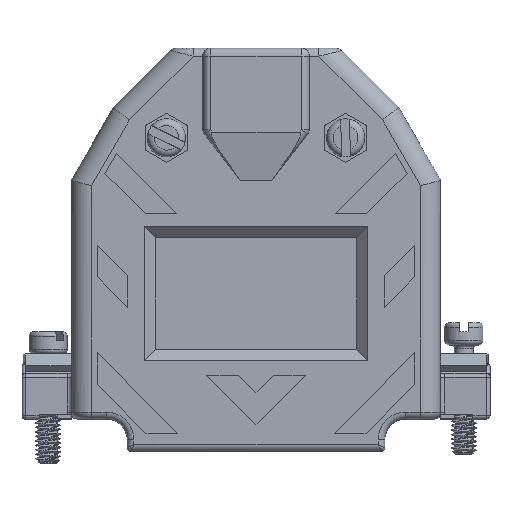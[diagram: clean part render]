
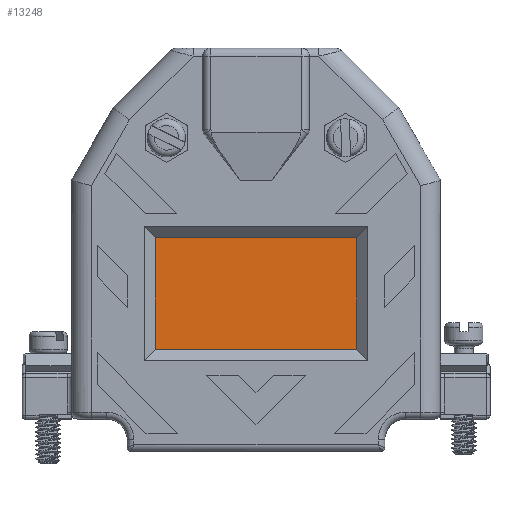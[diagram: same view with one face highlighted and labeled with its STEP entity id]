
A CAD part, top view. The second image highlights one B-rep face of the part: STEP entity #13248.
In plain terms, the highlighted planar face has unit normal (0, 0, 1) as drawn and (0, 0, -1) by its records, which use the part's own axes.
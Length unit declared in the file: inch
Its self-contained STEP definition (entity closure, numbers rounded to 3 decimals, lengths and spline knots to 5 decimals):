
#13147=CARTESIAN_POINT('',(0.45,0.055,-0.11));
#13148=VERTEX_POINT('',#13147);
#13155=CARTESIAN_POINT('',(-0.45,0.055,-0.11));
#13156=VERTEX_POINT('',#13155);
#13157=CARTESIAN_POINT('',(0.45,0.055,-0.11));
#13158=DIRECTION('',(-1.0,0.0,0.0));
#13159=VECTOR('',#13158,0.9);
#13160=LINE('',#13157,#13159);
#13161=EDGE_CURVE('',#13148,#13156,#13160,.T.);
#13179=CARTESIAN_POINT('',(-0.45,-0.445,-0.11));
#13180=VERTEX_POINT('',#13179);
#13181=CARTESIAN_POINT('',(-0.45,0.055,-0.11));
#13182=DIRECTION('',(0.0,-1.0,0.0));
#13183=VECTOR('',#13182,0.5);
#13184=LINE('',#13181,#13183);
#13185=EDGE_CURVE('',#13156,#13180,#13184,.T.);
#13203=CARTESIAN_POINT('',(0.45,-0.445,-0.11));
#13204=VERTEX_POINT('',#13203);
#13205=CARTESIAN_POINT('',(-0.45,-0.445,-0.11));
#13206=DIRECTION('',(1.0,0.0,0.0));
#13207=VECTOR('',#13206,0.9);
#13208=LINE('',#13205,#13207);
#13209=EDGE_CURVE('',#13180,#13204,#13208,.T.);
#13227=CARTESIAN_POINT('',(0.45,-0.445,-0.11));
#13228=DIRECTION('',(0.0,1.0,0.0));
#13229=VECTOR('',#13228,0.5);
#13230=LINE('',#13227,#13229);
#13231=EDGE_CURVE('',#13204,#13148,#13230,.T.);
#13237=CARTESIAN_POINT('',(0.,-0.195,-0.11));
#13238=DIRECTION('',(0.0,0.0,1.0));
#13239=DIRECTION('',(1.0,0.0,0.0));
#13240=AXIS2_PLACEMENT_3D('',#13237,#13238,#13239);
#13241=PLANE('',#13240);
#13242=ORIENTED_EDGE('',*,*,#13161,.F.);
#13243=ORIENTED_EDGE('',*,*,#13231,.F.);
#13244=ORIENTED_EDGE('',*,*,#13209,.F.);
#13245=ORIENTED_EDGE('',*,*,#13185,.F.);
#13246=EDGE_LOOP('',(#13242,#13243,#13244,#13245));
#13247=FACE_OUTER_BOUND('',#13246,.T.);
#13248=ADVANCED_FACE('',(#13247),#13241,.F.);
